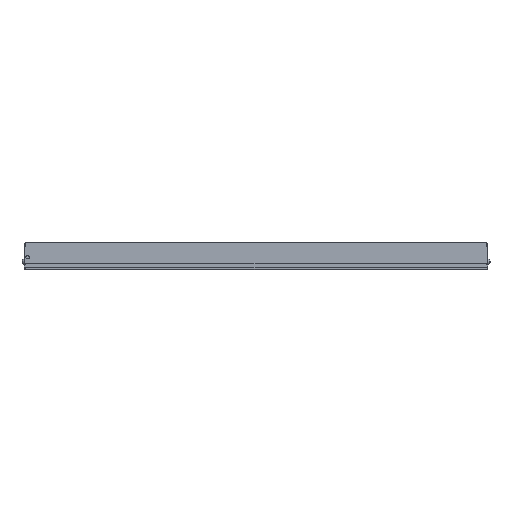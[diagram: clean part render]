
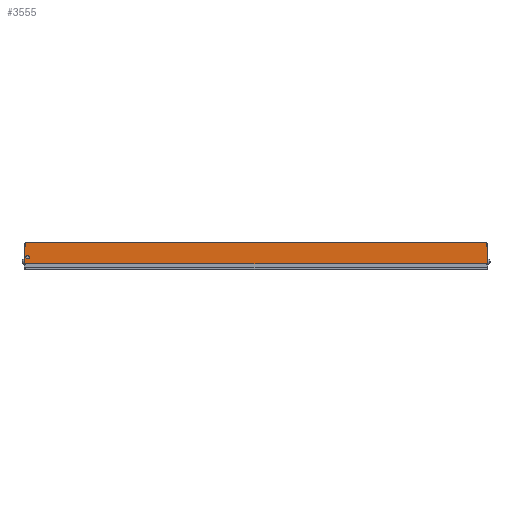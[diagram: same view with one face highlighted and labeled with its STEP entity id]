
A CAD part, top view. The second image highlights one B-rep face of the part: STEP entity #3555.
In plain terms, the highlighted planar face has unit normal (0, 0, 1) as drawn and (1, 0, 0) by its records, which use the part's own axes.
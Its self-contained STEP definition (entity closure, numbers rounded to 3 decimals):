
#332=DIRECTION('',(0.,1.,0.));
#333=VECTOR('',#332,17.499);
#334=CARTESIAN_POINT('',(9.,-4.3,-230.5));
#335=LINE('',#334,#333);
#480=CARTESIAN_POINT('',(9.,2.3,227.75));
#481=DIRECTION('',(1.,0.,0.));
#482=DIRECTION('',(0.,0.,-1.));
#483=AXIS2_PLACEMENT_3D('',#480,#481,#482);
#485=CARTESIAN_POINT('',(9.,2.3,227.75));
#486=DIRECTION('',(1.,0.,0.));
#487=DIRECTION('',(0.,0.,1.));
#488=AXIS2_PLACEMENT_3D('',#485,#486,#487);
#490=DIRECTION('',(0.,-1.,0.));
#491=VECTOR('',#490,3.301);
#492=CARTESIAN_POINT('',(9.,16.5,-229.5));
#493=LINE('',#492,#491);
#494=DIRECTION('',(0.,0.,-1.));
#495=VECTOR('',#494,1.);
#496=CARTESIAN_POINT('',(9.,13.199,-229.5));
#497=LINE('',#496,#495);
#498=DIRECTION('',(0.,0.,1.));
#499=VECTOR('',#498,460.);
#500=CARTESIAN_POINT('',(9.,-4.3,-230.5));
#501=LINE('',#500,#499);
#502=DIRECTION('',(0.,0.,-1.));
#503=VECTOR('',#502,459.);
#504=CARTESIAN_POINT('',(9.,16.5,229.5));
#505=LINE('',#504,#503);
#536=DIRECTION('',(0.,-1.,0.));
#537=VECTOR('',#536,3.203);
#538=CARTESIAN_POINT('',(9.,16.5,229.5));
#539=LINE('',#538,#537);
#548=DIRECTION('',(0.,-1.,0.));
#549=VECTOR('',#548,0.1);
#550=CARTESIAN_POINT('',(9.,-4.2,229.5));
#551=LINE('',#550,#549);
#1267=DIRECTION('',(0.,0.,1.));
#1268=VECTOR('',#1267,1.);
#1269=CARTESIAN_POINT('',(9.,13.297,229.5));
#1270=LINE('',#1269,#1268);
#1275=DIRECTION('',(0.,-1.,0.));
#1276=VECTOR('',#1275,17.497);
#1277=CARTESIAN_POINT('',(9.,13.297,230.5));
#1278=LINE('',#1277,#1276);
#1291=DIRECTION('',(0.,0.,-1.));
#1292=VECTOR('',#1291,1.);
#1293=CARTESIAN_POINT('',(9.,-4.2,230.5));
#1294=LINE('',#1293,#1292);
#2290=CARTESIAN_POINT('',(9.,13.297,230.5));
#2292=VERTEX_POINT('',#2290);
#2295=CARTESIAN_POINT('',(9.,-4.2,230.5));
#2296=VERTEX_POINT('',#2295);
#2499=CARTESIAN_POINT('',(9.,16.5,-229.5));
#2501=VERTEX_POINT('',#2499);
#2505=CARTESIAN_POINT('',(9.,-4.3,229.5));
#2507=VERTEX_POINT('',#2505);
#2517=CARTESIAN_POINT('',(9.,16.5,229.5));
#2518=VERTEX_POINT('',#2517);
#2519=CARTESIAN_POINT('',(9.,2.3,229.5));
#2521=VERTEX_POINT('',#2519);
#2525=CARTESIAN_POINT('',(9.,2.3,226.));
#2526=VERTEX_POINT('',#2525);
#2541=CARTESIAN_POINT('',(9.,13.297,229.5));
#2542=VERTEX_POINT('',#2541);
#2544=CARTESIAN_POINT('',(9.,-4.2,229.5));
#2546=VERTEX_POINT('',#2544);
#2645=CARTESIAN_POINT('',(9.,13.199,-230.5));
#2647=VERTEX_POINT('',#2645);
#2649=CARTESIAN_POINT('',(9.,-4.3,-230.5));
#2650=VERTEX_POINT('',#2649);
#2689=CARTESIAN_POINT('',(9.,13.199,-229.5));
#2691=VERTEX_POINT('',#2689);
#3526=CARTESIAN_POINT('',(9.,-4.2,229.5));
#3527=DIRECTION('',(1.,0.,0.));
#3528=DIRECTION('',(0.,1.,0.));
#3529=AXIS2_PLACEMENT_3D('',#3526,#3527,#3528);
#3530=PLANE('',#3529);
#3531=ORIENTED_EDGE('',*,*,#2754,.T.);
#3532=ORIENTED_EDGE('',*,*,#3099,.T.);
#3533=ORIENTED_EDGE('',*,*,#3083,.F.);
#3534=ORIENTED_EDGE('',*,*,#3516,.T.);
#3536=ORIENTED_EDGE('',*,*,#3535,.F.);
#3538=ORIENTED_EDGE('',*,*,#3537,.F.);
#3540=ORIENTED_EDGE('',*,*,#3539,.F.);
#3542=ORIENTED_EDGE('',*,*,#3541,.F.);
#3544=ORIENTED_EDGE('',*,*,#3543,.F.);
#3546=ORIENTED_EDGE('',*,*,#3545,.T.);
#3547=EDGE_LOOP('',(#3531,#3532,#3533,#3534,#3536,#3538,#3540,#3542,#3544,
#3546));
#3548=FACE_OUTER_BOUND('',#3547,.F.);
#3550=ORIENTED_EDGE('',*,*,#3549,.T.);
#3552=ORIENTED_EDGE('',*,*,#3551,.T.);
#3553=EDGE_LOOP('',(#3550,#3552));
#3554=FACE_BOUND('',#3553,.F.);
#484=CIRCLE('',#483,1.75);
#489=CIRCLE('',#488,1.75);
#2754=EDGE_CURVE('',#2501,#2691,#493,.T.);
#3083=EDGE_CURVE('',#2650,#2647,#335,.T.);
#3099=EDGE_CURVE('',#2691,#2647,#497,.T.);
#3516=EDGE_CURVE('',#2650,#2507,#501,.T.);
#3535=EDGE_CURVE('',#2546,#2507,#551,.T.);
#3537=EDGE_CURVE('',#2296,#2546,#1294,.T.);
#3539=EDGE_CURVE('',#2292,#2296,#1278,.T.);
#3541=EDGE_CURVE('',#2542,#2292,#1270,.T.);
#3543=EDGE_CURVE('',#2518,#2542,#539,.T.);
#3545=EDGE_CURVE('',#2518,#2501,#505,.T.);
#3549=EDGE_CURVE('',#2526,#2521,#484,.T.);
#3551=EDGE_CURVE('',#2521,#2526,#489,.T.);
#3555=ADVANCED_FACE('',(#3548,#3554),#3530,.T.);
